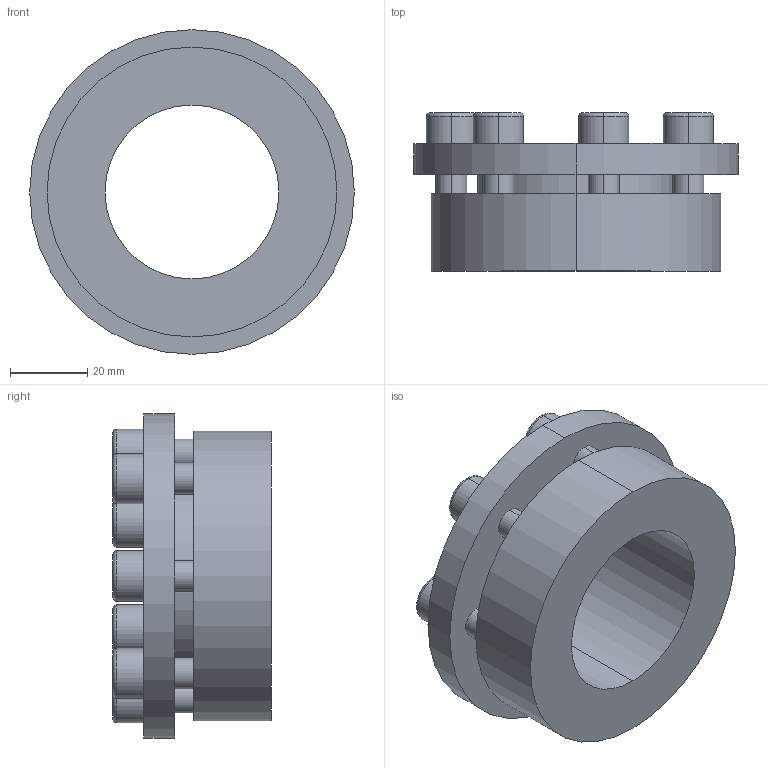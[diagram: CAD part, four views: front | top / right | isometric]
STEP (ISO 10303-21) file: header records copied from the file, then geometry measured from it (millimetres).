
FILE_DESCRIPTION (( 'STEP AP203' ), '1' );
FILE_NAME ('PL-H6 45-75.STEP', '2021-10-23T01:36:48', ( '' ), ( '' ), 'SwSTEP 2.0', 'SolidWorks 2018', '' );
FILE_SCHEMA (( 'CONFIG_CONTROL_DESIGN' ));
Length unit declared in the file: millimetre
Products named in the file (1): PL-H6 45-75
Bounding box: 84 x 41 x 84 mm (x, y, z)
Volume: 98681.4 mm3; surface area: 27861.8 mm2
Topology: 1 solids, 1 shells, 110 faces, 262 edges, 170 vertices
Faces by surface type: plane 60, cylinder 36, torus 14
Entity records: 3303 total; most frequent: DIRECTION 584, CARTESIAN_POINT 543, ORIENTED_EDGE 524, EDGE_CURVE 262, AXIS2_PLACEMENT_3D 211, VERTEX_POINT 170, LINE 162, VECTOR 162
